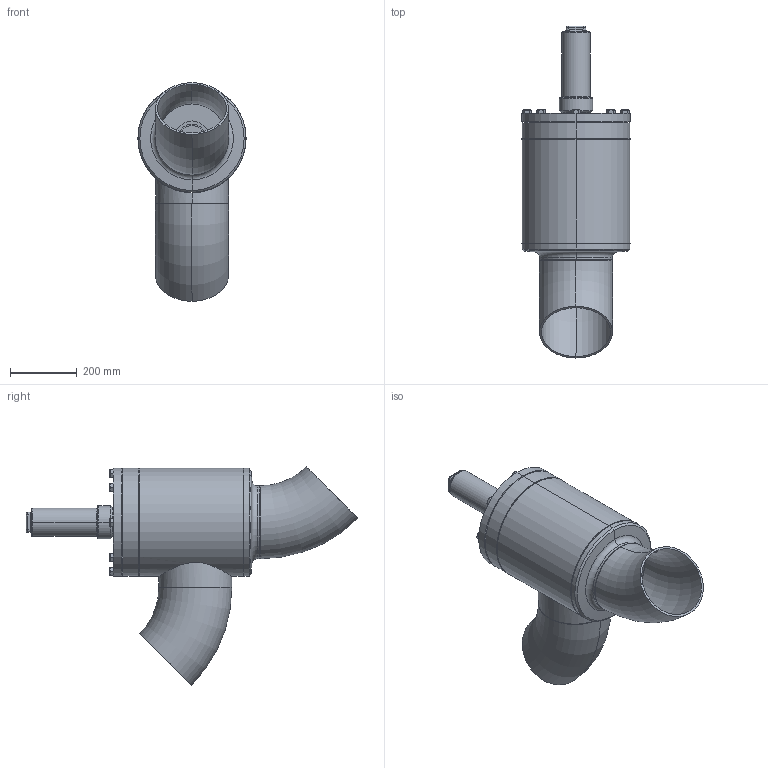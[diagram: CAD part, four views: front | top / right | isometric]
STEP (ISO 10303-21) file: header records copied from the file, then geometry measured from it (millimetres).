
FILE_DESCRIPTION (( 'STEP AP214' ), '1' );
FILE_NAME ('RVA29300C23-DN200_R1_PS25.STEP', '2006-04-28T05:31:27', ( 'Herr Grams' ), ( 'AWP GmbH' ), 'SwSTEP 2.0', 'SolidWorks 2002296', '' );
FILE_SCHEMA (( 'AUTOMOTIVE_DESIGN' ));
Length unit declared in the file: millimetre
Products named in the file (18): RVA29300C23-DN200_R1_PS25; Gehäuse-kpl16300-DN200_R1_Standard; Boden16300-DN200_Standard; Kopfstück16300-DN200_Standard; Gehäuse16300-DN200_Standard; Rohrbogen 45°_Rohrbogen-DN200-45°; Rohrstutzen-A16300-DN200_R1_Standard; bead-DN200-3_Standard; bead-DN200-2_Standard; bead-DN200-4_Standard; bead-DN200-1_Standard; RVA29300B23_Deck-Schr-DN200_Standard; Deckel-kpl29300B2-DN200_Standard; Buchse f Deckel29300-DN200_Standard; Scheibe f Deckel16300-DN200_Standard; bead-deck263-200_Standard; Sechskantschraube-DIN933_M16x 45; Kappe16402_DN200-350_Standard
Assembly tree (25 placements, depth 4):
  RVA29300C23-DN200_R1_PS25
    RVA29300B23_Deck-Schr-DN200_Standard
      Sechskantschraube-DIN933_M16x 45  x8
      Deckel-kpl29300B2-DN200_Standard
        Scheibe f Deckel16300-DN200_Standard
        Buchse f Deckel29300-DN200_Standard
        bead-deck263-200_Standard
    Gehäuse-kpl16300-DN200_R1_Standard
      Rohrbogen 45°_Rohrbogen-DN200-45°  x2
      Gehäuse16300-DN200_Standard
      Rohrstutzen-A16300-DN200_R1_Standard
      bead-DN200-2_Standard
      Kopfstück16300-DN200_Standard
      bead-DN200-4_Standard
      bead-DN200-3_Standard
      bead-DN200-1_Standard
      Boden16300-DN200_Standard
    Kappe16402_DN200-350_Standard
Bounding box: 325 x 996.13 x 655.93 mm (x, y, z)
Volume: 13329845.8 mm3; surface area: 2303591.5 mm2
Topology: 22 solids, 22 shells, 407 faces, 862 edges, 520 vertices
Faces by surface type: cone 132, plane 122, cylinder 105, bspline 28, torus 20
Entity records: 18894 total; most frequent: CARTESIAN_POINT 13005, DIRECTION 1082, ORIENTED_EDGE 972, EDGE_CURVE 486, AXIS2_PLACEMENT_3D 475, VERTEX_POINT 302, EDGE_LOOP 280, CIRCLE 246
